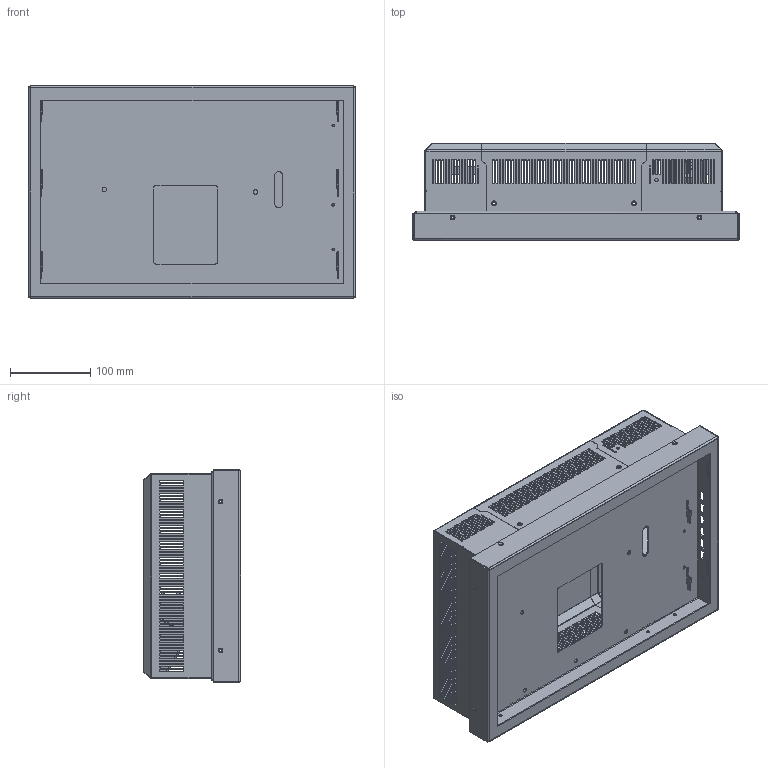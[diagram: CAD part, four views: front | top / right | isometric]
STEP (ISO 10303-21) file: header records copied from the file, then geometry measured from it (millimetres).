
FILE_DESCRIPTION(/* description */ ('42705'),/* implementation_level */ '2;1');
FILE_NAME(/* name */ 'G:\Mechanik\TFT\HD2Line\PDP_17W-IPS\PDP_17W-IPS Zur Weitergabe an Extern\PDP_17W-IPS_Export.stp',/* time_stamp */ '2015-03-18T15:49:13+01:00',/* author */ ('bh'),/* organization */ ('sonoVTS GmbH'),/* preprocessor_version */ 'ST-DEVELOPER v15.6',/* originating_system */ 'Autodesk Inventor 2015',/* authorisation */ '');
FILE_SCHEMA (('AUTOMOTIVE_DESIGN { 1 0 10303 214 3 1 1 }'));
Products named in the file (7): PDP_17W-IPS_Frontblende_B1; PDP_17W-IPS_Frontblende_B2; PDP_17W-IPS_Fertigung_Export; Haube_17er; PDP_17W-IPS_Export
Assembly tree (6 placements, depth 4):
  PDP_17W-IPS_Export
    PDP_17W-IPS_Fertigung_Export
      PDP_17W-IPS_Frontblende_B1
        PDP_17W-IPS_Frontblende_B1
      PDP_17W-IPS_Frontblende_B2
        PDP_17W-IPS_Frontblende_B2
    Haube_17er
Bounding box: 408 x 121.3 x 265.8 mm (x, y, z)
Volume: 607504.3 mm3; surface area: 819795.6 mm2
Topology: 15 solids, 15 shells, 2102 faces, 5881 edges, 3825 vertices
Faces by surface type: plane 1067, cylinder 915, bspline 54, cone 39, torus 18, sphere 9
Full cylindrical faces by diameter (mm): 2.5 x2, 3.3 x17, 4 x5, 4.1 x14, 4.15 x8, 4.3 x10, 5.1 x4, 5.4 x8, 6 x8, 6.1 x10, 7.6 x4
Entity records: 73045 total; most frequent: CARTESIAN_POINT 14664, DIRECTION 11557, ORIENTED_EDGE 11424, EDGE_CURVE 5712, AXIS2_PLACEMENT_3D 3872, LINE 3813, VECTOR 3813, VERTEX_POINT 3790
